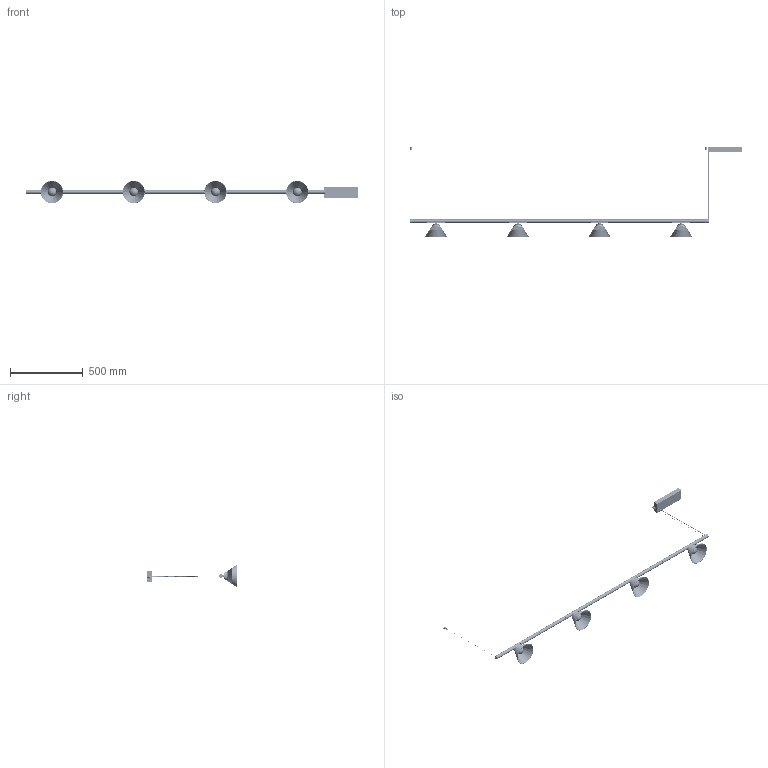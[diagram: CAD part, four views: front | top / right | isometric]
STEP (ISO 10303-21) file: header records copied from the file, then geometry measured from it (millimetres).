
FILE_DESCRIPTION (( 'STEP AP214' ), '1' );
FILE_NAME ('OVAL CONE 20 surf.STEP', '2024-03-15T13:18:17', ( '' ), ( '' ), 'SwSTEP 2.0', 'SolidWorks 2024', '' );
FILE_SCHEMA (( 'AUTOMOTIVE_DESIGN' ));
Length unit declared in the file: millimetre
Products named in the file (41): Ensamble Tensor Micro_Con Cable; Kgp 100w-24V; Ensamble Conector Jack Unión_Alimentación Colgante SCPRE; Imán_12d*5; BOLA CRISTAL OPAL MATE Ø60 CON ROSCA_60; CJ03-ENS-CAMPANA CONE(V1.1); DISIPADOR ALUMINIO BALO Bola Ø60_para bola Ø60; Cable acero_0.5m; 04-23DM03-Tope_Adaptador_1.3; OVAL CONE 20 surf; Tija Tiny_Inyección ; Ensamble Floron Superficie_Colgante; Taco Micro_Ø10 M10*5; Driver Entity EN1689; Tapa Micro V5_V5.1; Essentra Pasamuro 498025; CJ02-BALO 60_Surface Ø60; CUI_DEVICES_PJ-005B_Ø2.5; Chapa Floron Micro_Techo; Tapa Unión-Final V5_V5.1 Colgante Union ; Prisionero STEAB M4x4_8; Remache 3 Cabeza CONICA_remachado; Taco cuerpo Micro; Difusor Negro Oval_0.1m; Tapa Alimentación Perfil_SCPRE; 04-23DM01-Adaptador_Caja_DM01.3; Regulador Cable Ø0.6 (Bereta LT1007.0601); Tapon Tapa_2; CJ01-ENS_Adaptador 24V_Proyector; Ensamble Tapa + Tope_Con Conector; Tuerca Hembra Conector Jack; Rosca Bola_chapa galbanizada(inglass); Conector Molex Hembra 43020; Jack_Scpre; 04-23DM02-Adaptador_Tapa(V1.2)_24V; 04-23DM05-CAMPANA CONE(V1.1)_1; Difusor Negro Oval_0.44m; Cable_VISUAL Alimentación Micro; Embellecedor Floron Micro_Micro Colgante; Perfil Micro V4_2m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
Assembly tree (52 placements, depth 5):
  OVAL CONE 20 surf
    Perfil Micro V4_2m
    CJ03-ENS-CAMPANA CONE(V1.1)  x4
      04-23DM05-CAMPANA CONE(V1.1)_1
      CJ02-BALO 60_Surface Ø60
        DISIPADOR ALUMINIO BALO Bola Ø60_para bola Ø60
        BOLA CRISTAL OPAL MATE Ø60 CON ROSCA_60
          Bola_Ø60xT3
          Rosca Bola_chapa galbanizada(inglass)
      CJ01-ENS_Adaptador 24V_Proyector
        04-23DM01-Adaptador_Caja_DM01.3
        04-23DM02-Adaptador_Tapa(V1.2)_24V
        Conector Molex Hembra 43020
        Driver Entity EN1689
        04-23DM03-Tope_Adaptador_1.3  x2
        Tija Tiny_Inyección 
    Difusor Negro Oval_0.1m  x2
    Difusor Negro Oval_0.44m  x3
    Ensamble Tapa + Tope_Con Conector  x2
      Tapa Micro V5_V5.1
      CUI_DEVICES_PJ-005B_Ø2.5
      Tuerca Hembra Conector Jack
    Ensamble Tensor Micro_Con Cable  x2
      Taco Micro_Ø10 M10*5
      Taco cuerpo Micro
      Regulador Cable Ø0.6 (Bereta LT1007.0601)
      Cable acero_0.5m
    Tapa Unión-Final V5_V5.1 Colgante Union   x2
    Ensamble Floron Superficie_Colgante
      Kgp 100w-24V
      Embellecedor Floron Micro_Micro Colgante
      Chapa Floron Micro_Techo
      Remache 3 Cabeza CONICA_remachado  x2
      Imán_12d*5  x2
      Essentra Pasamuro 498025
    Ensamble Conector Jack Unión_Alimentación Colgante SCPRE
      Cable_VISUAL Alimentación Micro
      Jack_Scpre
      Tapa Alimentación Perfil_SCPRE
      Prisionero STEAB M4x4_8
    Tapon Tapa_2
Bounding box: 2274.44 x 619.27 x 153.01 mm (x, y, z)
Volume: 938960.9 mm3; surface area: 1124636.6 mm2
Topology: 86 solids, 88 shells, 9124 faces, 22974 edges, 14208 vertices
Faces by surface type: plane 3471, cylinder 2555, cone 1876, bspline 679, torus 395, sphere 148
Entity records: 162552 total; most frequent: CARTESIAN_POINT 66840, ORIENTED_EDGE 20642, DIRECTION 18715, EDGE_CURVE 10321, VERTEX_POINT 6574, VECTOR 6515, LINE 6515, AXIS2_PLACEMENT_3D 6100
